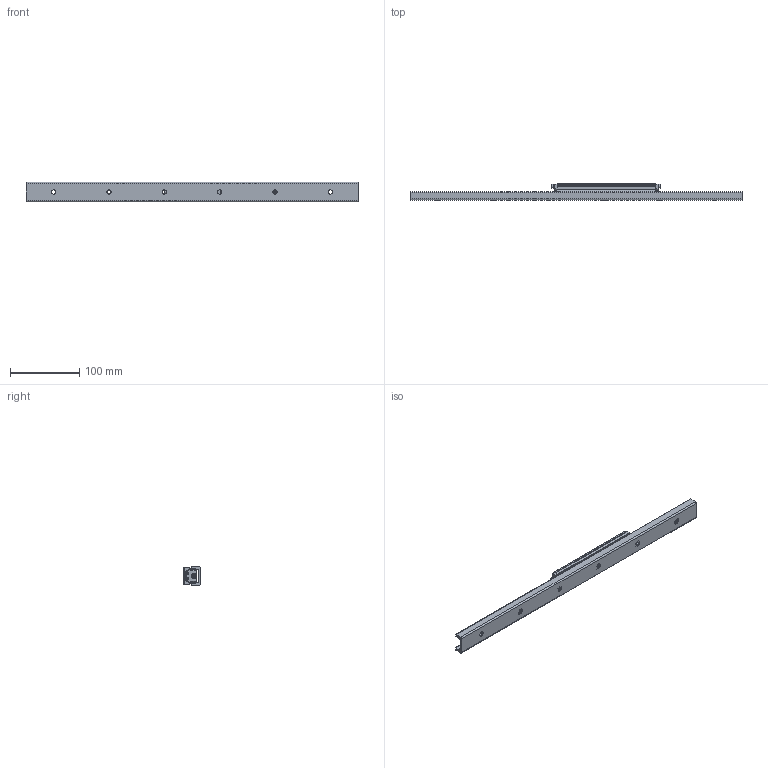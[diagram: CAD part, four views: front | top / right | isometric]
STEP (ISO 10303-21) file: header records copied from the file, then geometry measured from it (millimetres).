
FILE_DESCRIPTION(/* description */ ('STEP AP214'),/* implementation_level */ '2;1');
FILE_NAME(/* name */ 'AWG28RC1SS+480L(2000)',/* time_stamp */ '2024-10-17T13:44:21+02:00',/* author */ ('License CC BY-ND 4.0'),/* organization */ ('CADENAS'),/* preprocessor_version */ 'ST-DEVELOPER v19.3',/* originating_system */ 'PARTsolutions',/* authorisation */ ' ');
FILE_SCHEMA (('AUTOMOTIVE_DESIGN {1 0 10303 214 3 1 1}'));
Length unit declared in the file: millimetre
Products named in the file (5): AWG28RC1SS+480L(2000); AWG28RC1SS+480L A-M4F 200 0_rail; AWG28RC1SS+480L_carriage; AWG28RC_SSL_seal; AWG-RA_A-M4F_grease_nipple
Assembly tree (6 placements, depth 2):
  AWG28RC1SS+480L(2000)
    AWG28RC1SS+480L A-M4F 200 0_rail
    AWG28RC1SS+480L_carriage
    AWG28RC_SSL_seal  x2
    AWG-RA_A-M4F_grease_nipple  x2
Bounding box: 480 x 24 x 28 mm (x, y, z)
Volume: 122781.7 mm3; surface area: 79522.2 mm2
Topology: 6 solids, 11 shells, 1047 faces, 2570 edges, 1654 vertices
Faces by surface type: plane 575, cylinder 321, cone 99, torus 44, sphere 4, bspline 4
Full cylindrical faces by diameter (mm): 2 x8, 2.46 x4, 2.5 x2, 3 x4, 3.2 x4, 3.3 x2, 4 x2, 4.08 x5, 4.13 x5, 4.134 x4, 4.2 x2, 4.3 x2, 5 x5, 5.3 x5, 5.5 x9, 5.9 x2, 6 x12, 8 x5, 8.5 x5, 9.5 x6, 10 x5, 11 x5, 13.95 x3, 14 x5, 14.88 x10, 18.92 x10
Entity records: 24953 total; most frequent: CARTESIAN_POINT 4587, DIRECTION 4348, ORIENTED_EDGE 3852, EDGE_CURVE 1926, AXIS2_PLACEMENT_3D 1656, VERTEX_POINT 1361, FACE_BOUND 1191, EDGE_LOOP 1180
